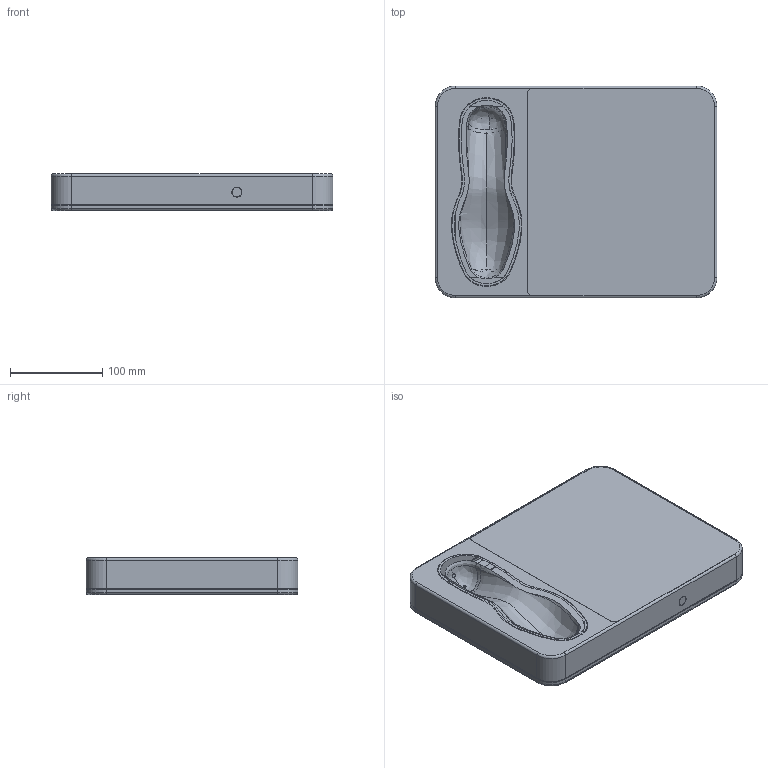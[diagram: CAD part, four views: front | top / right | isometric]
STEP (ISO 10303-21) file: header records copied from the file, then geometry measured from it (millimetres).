
FILE_DESCRIPTION(('Open CASCADE Model'),'2;1');
FILE_NAME('Open CASCADE Shape Model','2026-08-19T07:36:15',('Author'),( 'Open CASCADE'),'Open CASCADE STEP processor 7.9','Open CASCADE 7.9' ,'Unknown');
FILE_SCHEMA(('AUTOMOTIVE_DESIGN { 1 0 10303 214 1 1 1 1 }'));
Length unit declared in the file: millimetre
Products named in the file (8): a8d1697e-9ba0-11f1-a0ea-02fc00000001; station_body_black; gold_ring_pocket; gold_hairline_seam; gold_pogo_pins; gold_emblem_front; display_glass; foot_silicone
Assembly tree (7 placements, depth 2):
  a8d1697e-9ba0-11f1-a0ea-02fc00000001
    station_body_black
    gold_ring_pocket
    gold_hairline_seam
    gold_pogo_pins
    gold_emblem_front
    display_glass
    foot_silicone
Bounding box: 306 x 230.1 x 40.3 mm (x, y, z)
Volume: 103129 mm3; surface area: 306464.1 mm2
Topology: 8 solids, 15 shells, 186 faces, 1137 edges, 979 vertices
Faces by surface type: plane 78, cylinder 76, bspline 20, torus 8, revolution 4
Full cylindrical faces by diameter (mm): 3 x4, 6 x1, 10.4 x1, 11 x1
Entity records: 132016 total; most frequent: CARTESIAN_POINT 117933, B_SPLINE_CURVE_WITH_KNOTS 1675, ORIENTED_EDGE 1541, PCURVE 1541, DEFINITIONAL_REPRESENTATION 1541, DIRECTION 1495, EDGE_CURVE 1137, SURFACE_CURVE 1126
